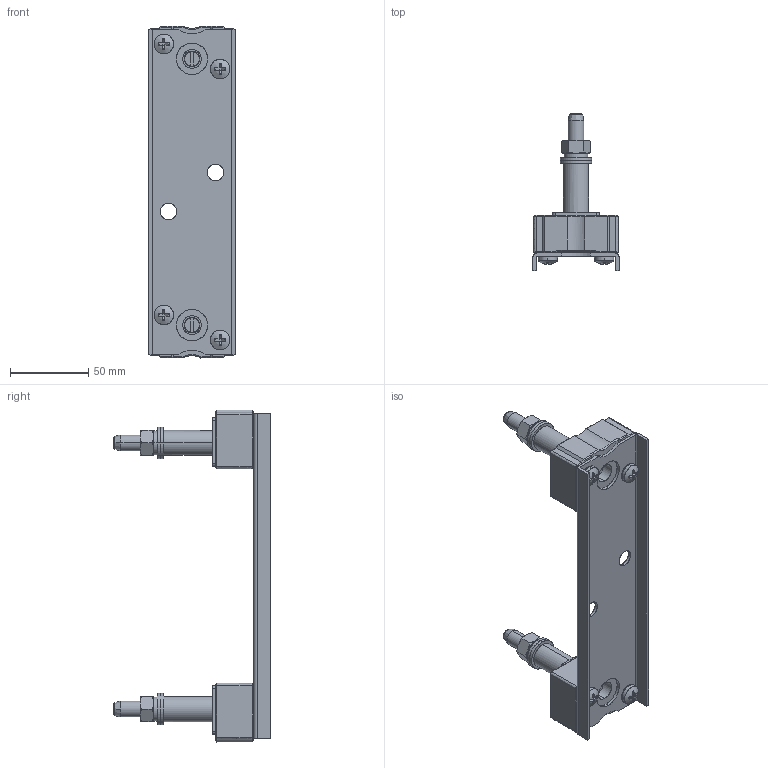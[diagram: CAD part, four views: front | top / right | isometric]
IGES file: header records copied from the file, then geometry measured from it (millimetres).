
Start section: SolidWorks IGES file using analytic representation for surfaces
Global section: file name: U:\14_RD\05_Technical_office\04_Office\Hrdinova\3D modely - IGES\Varius - Ostatní\SP50X16.IGS; native system: SolidWorks 2011; preprocessor: SolidWorks 2011; author: adhrja3; date: 170620.142817; units: millimetre
Bounding box: 55 x 100.2 x 212 mm (x, y, z)
Surface area: 69608.8 mm2 (no closed solid volume)
Topology: 0 solids, 0 shells, 622 faces, 8487 edges, 8479 vertices
Faces by surface type: bspline 342, revolution 280
